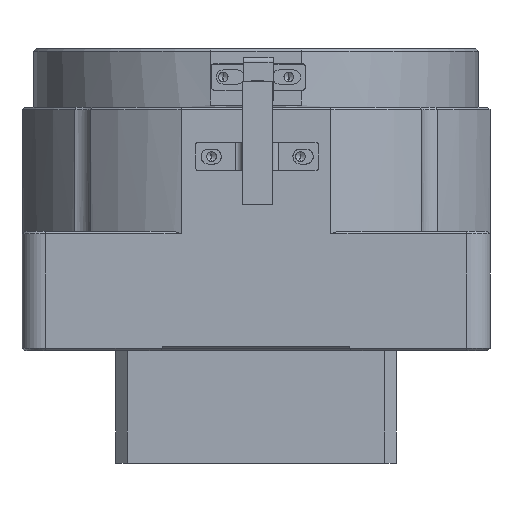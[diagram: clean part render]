
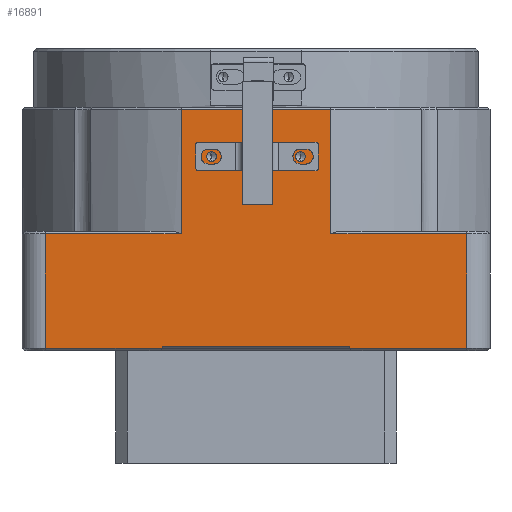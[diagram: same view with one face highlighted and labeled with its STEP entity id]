
A CAD part, front view. The second image highlights one B-rep face of the part: STEP entity #16891.
In plain terms, the highlighted planar face has unit normal (0, -1, 0).
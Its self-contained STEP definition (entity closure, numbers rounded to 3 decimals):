
#303 = CARTESIAN_POINT ( 'NONE',  ( -29.194, -59.465, -19.25 ) ) ;
#437 = VECTOR ( 'NONE', #13452, 1000. ) ;
#483 = VERTEX_POINT ( 'NONE', #11266 ) ;
#616 = DIRECTION ( 'NONE',  ( 1., 0., 0. ) ) ;
#706 = CARTESIAN_POINT ( 'NONE',  ( -9.194, -59.465, 31.75 ) ) ;
#726 = CARTESIAN_POINT ( 'NONE',  ( 6.814, -59.465, 4.75 ) ) ;
#849 = DIRECTION ( 'NONE',  ( 0., 0., 1. ) ) ;
#909 = CARTESIAN_POINT ( 'NONE',  ( 10.806, -59.465, -19.75 ) ) ;
#1113 = EDGE_CURVE ( 'NONE', #8299, #6213, #1827, .T. ) ;
#1151 = VERTEX_POINT ( 'NONE', #17919 ) ;
#1358 = DIRECTION ( 'NONE',  ( 0., -1., 0. ) ) ;
#1362 = EDGE_LOOP ( 'NONE', ( #4670, #1647 ) ) ;
#1400 = VERTEX_POINT ( 'NONE', #10549 ) ;
#1605 = ORIENTED_EDGE ( 'NONE', *, *, #1113, .T. ) ;
#1647 = ORIENTED_EDGE ( 'NONE', *, *, #13894, .F. ) ;
#1700 = CARTESIAN_POINT ( 'NONE',  ( -9.194, -59.465, -19.75 ) ) ;
#1734 = CARTESIAN_POINT ( 'NONE',  ( 35.806, -59.465, 5.25 ) ) ;
#1778 = CARTESIAN_POINT ( 'NONE',  ( -25.201, -59.465, 4.75 ) ) ;
#1799 = ORIENTED_EDGE ( 'NONE', *, *, #14053, .T. ) ;
#1827 = LINE ( 'NONE', #1734, #3040 ) ;
#1899 = LINE ( 'NONE', #1700, #14725 ) ;
#2131 = ORIENTED_EDGE ( 'NONE', *, *, #9925, .T. ) ;
#2256 = CARTESIAN_POINT ( 'NONE',  ( -29.194, -59.465, -19.75 ) ) ;
#2333 = ORIENTED_EDGE ( 'NONE', *, *, #11682, .T. ) ;
#2624 = CARTESIAN_POINT ( 'NONE',  ( -54.194, -59.465, 4.75 ) ) ;
#2639 = EDGE_CURVE ( 'NONE', #6213, #7507, #8790, .T. ) ;
#3040 = VECTOR ( 'NONE', #10381, 1000. ) ;
#3541 = CARTESIAN_POINT ( 'NONE',  ( 35.806, -59.465, 4.75 ) ) ;
#3567 = CARTESIAN_POINT ( 'NONE',  ( -29.194, -59.465, -19.75 ) ) ;
#3626 = PLANE ( 'NONE',  #10457 ) ;
#3674 = ORIENTED_EDGE ( 'NONE', *, *, #16152, .F. ) ;
#3751 = CARTESIAN_POINT ( 'NONE',  ( -9.194, -59.465, -19.75 ) ) ;
#3828 = VECTOR ( 'NONE', #15040, 1000. ) ;
#3837 = AXIS2_PLACEMENT_3D ( 'NONE', #8320, #1358, #5794 ) ;
#3978 = VERTEX_POINT ( 'NONE', #12490 ) ;
#4287 = DIRECTION ( 'NONE',  ( 0., 0., -1. ) ) ;
#4606 = VECTOR ( 'NONE', #6211, 1000. ) ;
#4670 = ORIENTED_EDGE ( 'NONE', *, *, #12459, .F. ) ;
#4900 = LINE ( 'NONE', #17965, #5343 ) ;
#4903 = AXIS2_PLACEMENT_3D ( 'NONE', #18448, #8467, #17027 ) ;
#5009 = CARTESIAN_POINT ( 'NONE',  ( 35.806, -59.465, -19.75 ) ) ;
#5234 = ORIENTED_EDGE ( 'NONE', *, *, #6938, .T. ) ;
#5343 = VECTOR ( 'NONE', #16554, 1000. ) ;
#5353 = CARTESIAN_POINT ( 'NONE',  ( 0.306, -59.465, 20.225 ) ) ;
#5370 = AXIS2_PLACEMENT_3D ( 'NONE', #14653, #17474, #17568 ) ;
#5375 = EDGE_CURVE ( 'NONE', #1400, #7448, #13777, .T. ) ;
#5381 = CARTESIAN_POINT ( 'NONE',  ( 0.306, -59.465, 21.25 ) ) ;
#5794 = DIRECTION ( 'NONE',  ( 0., 0., -1. ) ) ;
#5799 = VERTEX_POINT ( 'NONE', #5353 ) ;
#5878 = VERTEX_POINT ( 'NONE', #3567 ) ;
#5889 = EDGE_CURVE ( 'NONE', #7482, #8299, #16724, .T. ) ;
#6022 = CARTESIAN_POINT ( 'NONE',  ( 10.806, -59.465, -19.25 ) ) ;
#6211 = DIRECTION ( 'NONE',  ( -1., 0., 0. ) ) ;
#6213 = VERTEX_POINT ( 'NONE', #3541 ) ;
#6253 = LINE ( 'NONE', #11981, #14039 ) ;
#6262 = FACE_OUTER_BOUND ( 'NONE', #15358, .T. ) ;
#6428 = VECTOR ( 'NONE', #849, 1000. ) ;
#6455 = DIRECTION ( 'NONE',  ( 0., 1., 0. ) ) ;
#6480 = ORIENTED_EDGE ( 'NONE', *, *, #12656, .F. ) ;
#6497 = LINE ( 'NONE', #13823, #4606 ) ;
#6688 = LINE ( 'NONE', #2256, #6428 ) ;
#6938 = EDGE_CURVE ( 'NONE', #483, #5878, #1899, .T. ) ;
#7448 = VERTEX_POINT ( 'NONE', #10872 ) ;
#7482 = VERTEX_POINT ( 'NONE', #909 ) ;
#7507 = VERTEX_POINT ( 'NONE', #726 ) ;
#7562 = ORIENTED_EDGE ( 'NONE', *, *, #10092, .T. ) ;
#8048 = VERTEX_POINT ( 'NONE', #303 ) ;
#8129 = ORIENTED_EDGE ( 'NONE', *, *, #5375, .F. ) ;
#8197 = CIRCLE ( 'NONE', #4903, 1.025 ) ;
#8299 = VERTEX_POINT ( 'NONE', #5009 ) ;
#8320 = CARTESIAN_POINT ( 'NONE',  ( 0.306, -59.465, 21.25 ) ) ;
#8467 = DIRECTION ( 'NONE',  ( 0., -1., 0. ) ) ;
#8646 = DIRECTION ( 'NONE',  ( -1., 0., 0. ) ) ;
#8679 = EDGE_CURVE ( 'NONE', #3978, #10954, #6497, .T. ) ;
#8699 = DIRECTION ( 'NONE',  ( 0., 0., 1. ) ) ;
#8790 = LINE ( 'NONE', #16980, #13701 ) ;
#9172 = FACE_BOUND ( 'NONE', #1362, .T. ) ;
#9180 = ORIENTED_EDGE ( 'NONE', *, *, #2639, .T. ) ;
#9302 = DIRECTION ( 'NONE',  ( 0., 0., -1. ) ) ;
#9925 = EDGE_CURVE ( 'NONE', #8048, #14744, #14589, .T. ) ;
#10050 = VECTOR ( 'NONE', #8646, 1000. ) ;
#10092 = EDGE_CURVE ( 'NONE', #5878, #8048, #6688, .T. ) ;
#10112 = ORIENTED_EDGE ( 'NONE', *, *, #8679, .T. ) ;
#10211 = EDGE_CURVE ( 'NONE', #12748, #11648, #17216, .T. ) ;
#10381 = DIRECTION ( 'NONE',  ( 0., 0., 1. ) ) ;
#10441 = EDGE_LOOP ( 'NONE', ( #6480, #8129 ) ) ;
#10457 = AXIS2_PLACEMENT_3D ( 'NONE', #706, #6455, #616 ) ;
#10549 = CARTESIAN_POINT ( 'NONE',  ( -18.694, -59.465, 22.275 ) ) ;
#10872 = CARTESIAN_POINT ( 'NONE',  ( -18.694, -59.465, 20.225 ) ) ;
#10954 = VERTEX_POINT ( 'NONE', #15355 ) ;
#10977 = LINE ( 'NONE', #13903, #15420 ) ;
#11194 = AXIS2_PLACEMENT_3D ( 'NONE', #5381, #15160, #12509 ) ;
#11244 = CARTESIAN_POINT ( 'NONE',  ( 10.806, -59.465, -19.75 ) ) ;
#11266 = CARTESIAN_POINT ( 'NONE',  ( -54.194, -59.465, -19.75 ) ) ;
#11340 = CIRCLE ( 'NONE', #3837, 1.025 ) ;
#11601 = DIRECTION ( 'NONE',  ( -1., 0., 0. ) ) ;
#11648 = VERTEX_POINT ( 'NONE', #14852 ) ;
#11682 = EDGE_CURVE ( 'NONE', #11648, #483, #10977, .T. ) ;
#11981 = CARTESIAN_POINT ( 'NONE',  ( 6.814, -59.465, 5.25 ) ) ;
#12092 = CIRCLE ( 'NONE', #11194, 1.025 ) ;
#12459 = EDGE_CURVE ( 'NONE', #5799, #1151, #12092, .T. ) ;
#12490 = CARTESIAN_POINT ( 'NONE',  ( 6.814, -59.465, 31.25 ) ) ;
#12509 = DIRECTION ( 'NONE',  ( 0., 0., -1. ) ) ;
#12656 = EDGE_CURVE ( 'NONE', #7448, #1400, #8197, .T. ) ;
#12748 = VERTEX_POINT ( 'NONE', #1778 ) ;
#13118 = VECTOR ( 'NONE', #4287, 1000. ) ;
#13452 = DIRECTION ( 'NONE',  ( 1., 0., 0. ) ) ;
#13473 = EDGE_CURVE ( 'NONE', #14744, #7482, #17177, .T. ) ;
#13701 = VECTOR ( 'NONE', #11601, 1000. ) ;
#13777 = CIRCLE ( 'NONE', #5370, 1.025 ) ;
#13823 = CARTESIAN_POINT ( 'NONE',  ( -25.201, -59.465, 31.25 ) ) ;
#13894 = EDGE_CURVE ( 'NONE', #1151, #5799, #11340, .T. ) ;
#13903 = CARTESIAN_POINT ( 'NONE',  ( -54.194, -59.465, 31.75 ) ) ;
#14039 = VECTOR ( 'NONE', #8699, 1000. ) ;
#14053 = EDGE_CURVE ( 'NONE', #7507, #3978, #6253, .T. ) ;
#14589 = LINE ( 'NONE', #17786, #437 ) ;
#14653 = CARTESIAN_POINT ( 'NONE',  ( -18.694, -59.465, 21.25 ) ) ;
#14725 = VECTOR ( 'NONE', #16091, 1000. ) ;
#14744 = VERTEX_POINT ( 'NONE', #6022 ) ;
#14852 = CARTESIAN_POINT ( 'NONE',  ( -54.194, -59.465, 4.75 ) ) ;
#15000 = ORIENTED_EDGE ( 'NONE', *, *, #5889, .T. ) ;
#15040 = DIRECTION ( 'NONE',  ( 1., 0., 0. ) ) ;
#15160 = DIRECTION ( 'NONE',  ( 0., -1., 0. ) ) ;
#15287 = ORIENTED_EDGE ( 'NONE', *, *, #10211, .T. ) ;
#15355 = CARTESIAN_POINT ( 'NONE',  ( -25.201, -59.465, 31.25 ) ) ;
#15358 = EDGE_LOOP ( 'NONE', ( #3674, #15287, #2333, #5234, #7562, #2131, #16482, #15000, #1605, #9180, #1799, #10112 ) ) ;
#15420 = VECTOR ( 'NONE', #9302, 1000. ) ;
#16091 = DIRECTION ( 'NONE',  ( 1., 0., 0. ) ) ;
#16152 = EDGE_CURVE ( 'NONE', #12748, #10954, #4900, .T. ) ;
#16412 = FACE_BOUND ( 'NONE', #10441, .T. ) ;
#16482 = ORIENTED_EDGE ( 'NONE', *, *, #13473, .T. ) ;
#16554 = DIRECTION ( 'NONE',  ( 0., 0., 1. ) ) ;
#16724 = LINE ( 'NONE', #3751, #3828 ) ;
#16891 = ADVANCED_FACE ( 'NONE', ( #9172, #16412, #6262 ), #3626, .F. ) ;
#16980 = CARTESIAN_POINT ( 'NONE',  ( 6.814, -59.465, 4.75 ) ) ;
#17027 = DIRECTION ( 'NONE',  ( 0., 0., -1. ) ) ;
#17177 = LINE ( 'NONE', #11244, #13118 ) ;
#17216 = LINE ( 'NONE', #2624, #10050 ) ;
#17474 = DIRECTION ( 'NONE',  ( 0., -1., 0. ) ) ;
#17568 = DIRECTION ( 'NONE',  ( 0., 0., -1. ) ) ;
#17786 = CARTESIAN_POINT ( 'NONE',  ( -9.194, -59.465, -19.25 ) ) ;
#17919 = CARTESIAN_POINT ( 'NONE',  ( 0.306, -59.465, 22.275 ) ) ;
#17965 = CARTESIAN_POINT ( 'NONE',  ( -25.201, -59.465, 5.25 ) ) ;
#18448 = CARTESIAN_POINT ( 'NONE',  ( -18.694, -59.465, 21.25 ) ) ;
